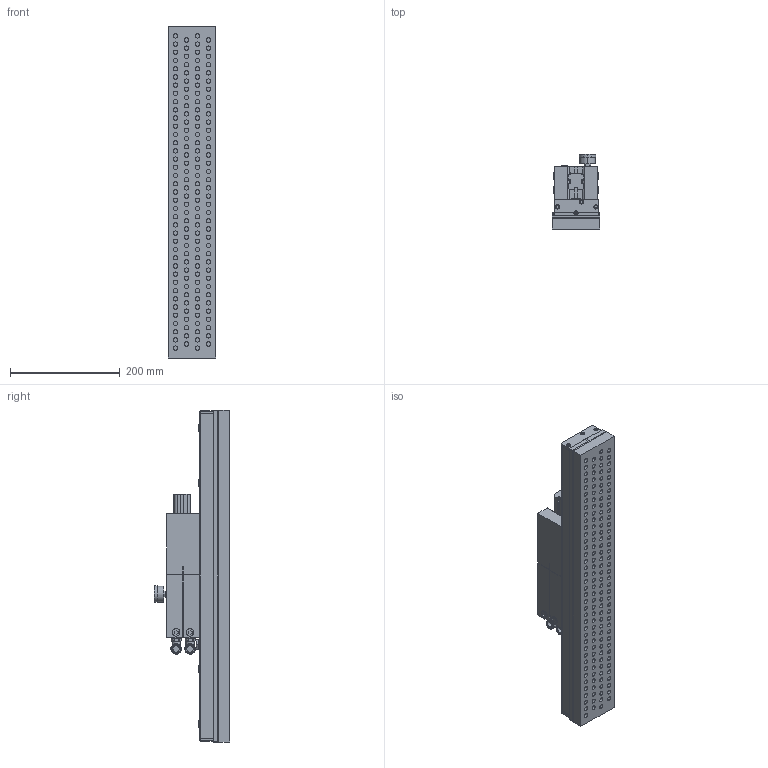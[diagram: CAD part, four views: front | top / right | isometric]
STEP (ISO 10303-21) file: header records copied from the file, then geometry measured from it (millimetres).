
FILE_DESCRIPTION (( 'STEP AP214' ), '1' );
FILE_NAME ('9671 060 016.STEP', '2012-09-12T10:41:58', ( 'cad' ), ( 'Microsoft' ), 'SwSTEP 2.0', 'SolidWorks 2012', '' );
FILE_SCHEMA (( 'AUTOMOTIVE_DESIGN' ));
Length unit declared in the file: millimetre
Products named in the file (1): 9671 060 016
Bounding box: 86 x 137 x 606 mm (x, y, z)
Volume: 3662444.8 mm3; surface area: 355720.3 mm2
Topology: 1 solids, 1 shells, 1127 faces, 2520 edges, 1608 vertices
Faces by surface type: plane 570, cylinder 463, cone 68, torus 16, bspline 8, sphere 2
Entity records: 42457 total; most frequent: CARTESIAN_POINT 5976, DIRECTION 5706, ORIENTED_EDGE 5040, EDGE_CURVE 2520, AXIS2_PLACEMENT_3D 2170, VERTEX_POINT 1608, LINE 1366, VECTOR 1366
